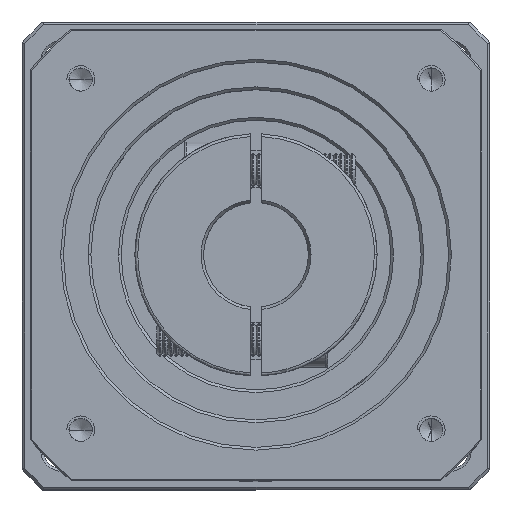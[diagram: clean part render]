
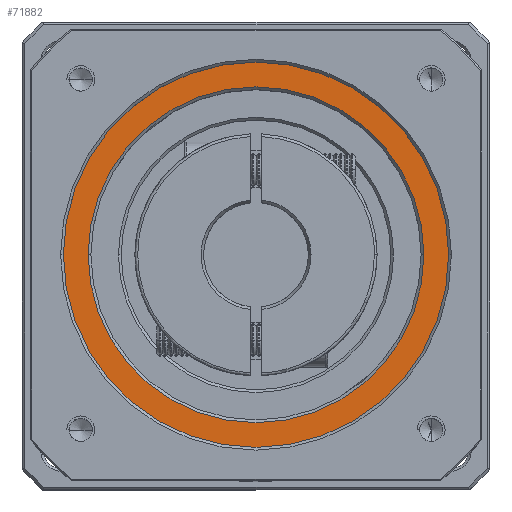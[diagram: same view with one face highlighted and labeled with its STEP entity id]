
A CAD part, top view. The second image highlights one B-rep face of the part: STEP entity #71882.
In plain terms, the highlighted planar face has unit normal (0, 0, 1).
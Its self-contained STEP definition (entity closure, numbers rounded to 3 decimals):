
#257 = VERTEX_POINT ( 'NONE', #70304 ) ;
#2983 = EDGE_CURVE ( 'NONE', #257, #79740, #28496, .T. ) ;
#8524 = DIRECTION ( 'NONE',  ( 0., 0., 1. ) ) ;
#9231 = EDGE_LOOP ( 'NONE', ( #63900, #16899 ) ) ;
#11989 = AXIS2_PLACEMENT_3D ( 'NONE', #78597, #29282, #70393 ) ;
#16899 = ORIENTED_EDGE ( 'NONE', *, *, #34856, .T. ) ;
#18514 = VERTEX_POINT ( 'NONE', #24166 ) ;
#19690 = PLANE ( 'NONE',  #11989 ) ;
#20650 = CIRCLE ( 'NONE', #22516, 30.5 ) ;
#21350 = DIRECTION ( 'NONE',  ( 1., 0., 0. ) ) ;
#22516 = AXIS2_PLACEMENT_3D ( 'NONE', #73291, #103698, #63420 ) ;
#24166 = CARTESIAN_POINT ( 'NONE',  ( -21.832, 49.407, -5.726 ) ) ;
#28496 = CIRCLE ( 'NONE', #101919, 35. ) ;
#29282 = DIRECTION ( 'NONE',  ( 0., 0., 1. ) ) ;
#33076 = VERTEX_POINT ( 'NONE', #93315 ) ;
#34856 = EDGE_CURVE ( 'NONE', #33076, #18514, #20650, .T. ) ;
#40822 = FACE_BOUND ( 'NONE', #9231, .T. ) ;
#42258 = EDGE_CURVE ( 'NONE', #79740, #257, #58151, .T. ) ;
#43467 = DIRECTION ( 'NONE',  ( 1., 0., 0. ) ) ;
#47014 = AXIS2_PLACEMENT_3D ( 'NONE', #119333, #99839, #21350 ) ;
#47633 = EDGE_LOOP ( 'NONE', ( #53273, #59605 ) ) ;
#53273 = ORIENTED_EDGE ( 'NONE', *, *, #2983, .T. ) ;
#58151 = CIRCLE ( 'NONE', #113182, 35. ) ;
#59605 = ORIENTED_EDGE ( 'NONE', *, *, #42258, .T. ) ;
#63420 = DIRECTION ( 'NONE',  ( 1., 0., 0. ) ) ;
#63900 = ORIENTED_EDGE ( 'NONE', *, *, #120616, .T. ) ;
#66780 = DIRECTION ( 'NONE',  ( 1., 0., 0. ) ) ;
#70304 = CARTESIAN_POINT ( 'NONE',  ( -17.332, 49.407, -5.726 ) ) ;
#70393 = DIRECTION ( 'NONE',  ( 1., 0., 0. ) ) ;
#71882 = ADVANCED_FACE ( 'NONE', ( #77911, #40822 ), #19690, .T. ) ;
#72895 = DIRECTION ( 'NONE',  ( 0., 0., 1. ) ) ;
#73291 = CARTESIAN_POINT ( 'NONE',  ( -52.332, 49.407, -5.726 ) ) ;
#73744 = CARTESIAN_POINT ( 'NONE',  ( -52.332, 49.407, -5.726 ) ) ;
#77911 = FACE_OUTER_BOUND ( 'NONE', #47633, .T. ) ;
#78597 = CARTESIAN_POINT ( 'NONE',  ( -52.332, 49.407, -5.726 ) ) ;
#79740 = VERTEX_POINT ( 'NONE', #93660 ) ;
#91710 = CIRCLE ( 'NONE', #47014, 30.5 ) ;
#93315 = CARTESIAN_POINT ( 'NONE',  ( -82.832, 49.407, -5.726 ) ) ;
#93660 = CARTESIAN_POINT ( 'NONE',  ( -87.332, 49.407, -5.726 ) ) ;
#99839 = DIRECTION ( 'NONE',  ( 0., 0., -1. ) ) ;
#101919 = AXIS2_PLACEMENT_3D ( 'NONE', #106188, #8524, #66780 ) ;
#103698 = DIRECTION ( 'NONE',  ( 0., 0., -1. ) ) ;
#106188 = CARTESIAN_POINT ( 'NONE',  ( -52.332, 49.407, -5.726 ) ) ;
#113182 = AXIS2_PLACEMENT_3D ( 'NONE', #73744, #72895, #43467 ) ;
#119333 = CARTESIAN_POINT ( 'NONE',  ( -52.332, 49.407, -5.726 ) ) ;
#120616 = EDGE_CURVE ( 'NONE', #18514, #33076, #91710, .T. ) ;
